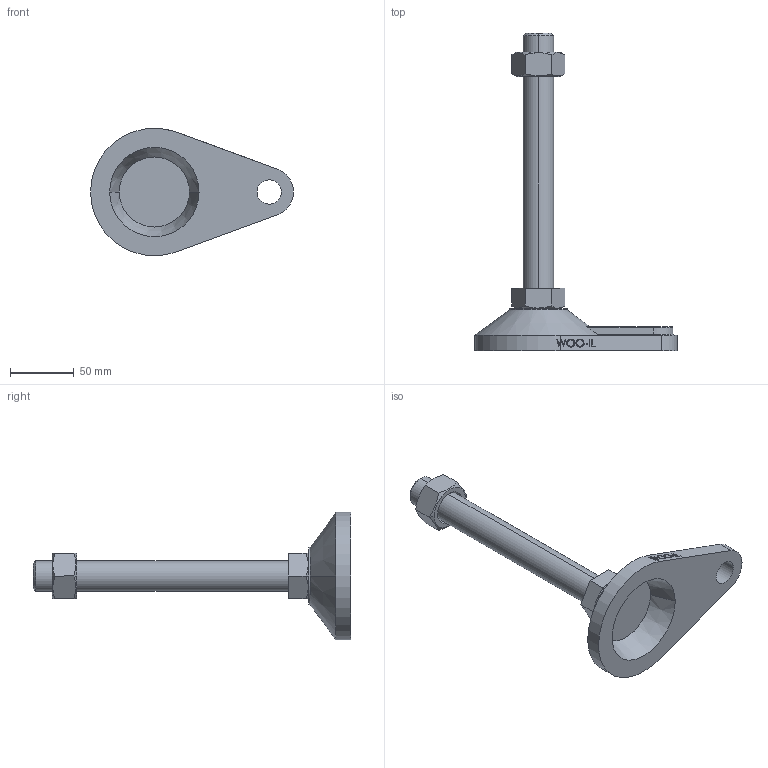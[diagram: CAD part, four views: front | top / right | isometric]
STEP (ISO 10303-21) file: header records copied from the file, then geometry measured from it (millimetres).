
FILE_DESCRIPTION (( 'STEP AP214' ), '1' );
FILE_NAME ('PAD-A100-M24-200.step', '2021-03-08T08:08:46', ( '' ), ( '' ), 'SwSTEP 2.0', 'SolidWorks 2019', '' );
FILE_SCHEMA (( 'AUTOMOTIVE_DESIGN' ));
Length unit declared in the file: millimetre
Products named in the file (2): PAD-A100-M24-200
Bounding box: 159 x 249 x 100 mm (x, y, z)
Volume: 287054.9 mm3; surface area: 56761.2 mm2
Topology: 3 solids, 3 shells, 112 faces, 271 edges, 174 vertices
Faces by surface type: plane 61, cylinder 17, cone 16, bspline 16, torus 2
Entity records: 4831 total; most frequent: CARTESIAN_POINT 2257, ORIENTED_EDGE 542, DIRECTION 462, EDGE_CURVE 271, VERTEX_POINT 174, LINE 156, VECTOR 156, AXIS2_PLACEMENT_3D 153
